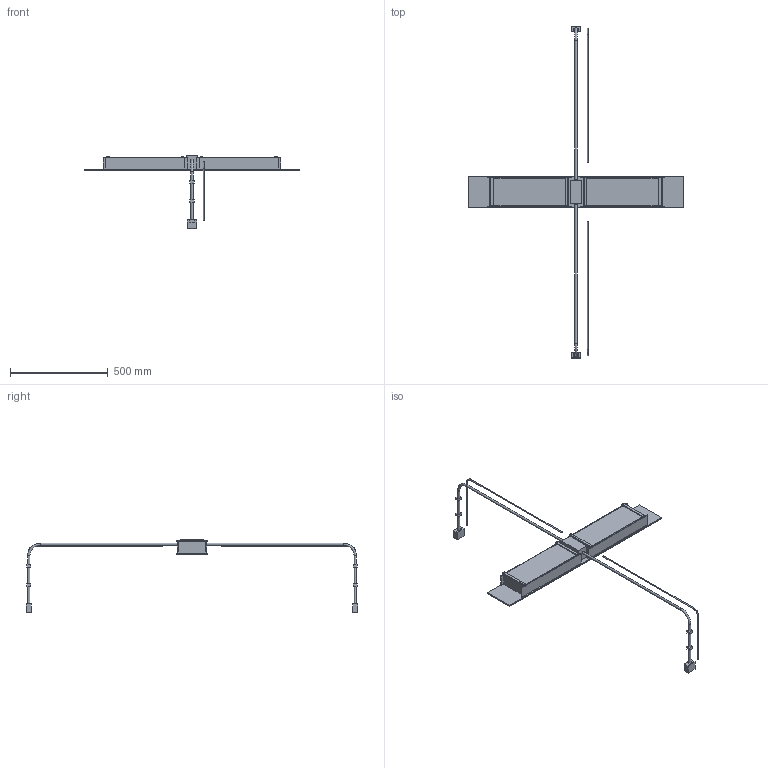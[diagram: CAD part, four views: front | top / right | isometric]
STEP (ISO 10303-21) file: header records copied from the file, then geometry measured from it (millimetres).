
FILE_DESCRIPTION(('FreeCAD Model'),'2;1');
FILE_NAME('Open CASCADE Shape Model','2026-10-29T11:57:35',('FreeCAD'),( 'FreeCAD'),'Open CASCADE STEP processor 7.8','FreeCAD','Unknown');
FILE_SCHEMA(('AUTOMOTIVE_DESIGN { 1 0 10303 214 1 1 1 1 }'));
Length unit declared in the file: millimetre
Products named in the file (1): Open CASCADE STEP translator 7.8 3
Bounding box: 1100 x 1698 x 375 mm (x, y, z)
Volume: 9262881 mm3; surface area: 1505612.1 mm2
Topology: 25 solids, 25 shells, 154 faces, 304 edges, 200 vertices
Faces by surface type: plane 134, cylinder 16, torus 4
Full cylindrical faces by diameter (mm): 6 x4, 6.6 x8, 12 x4
Entity records: 3894 total; most frequent: CARTESIAN_POINT 659, DIRECTION 650, ORIENTED_EDGE 608, EDGE_CURVE 304, LINE 268, VECTOR 268, VERTEX_POINT 200, AXIS2_PLACEMENT_3D 191
